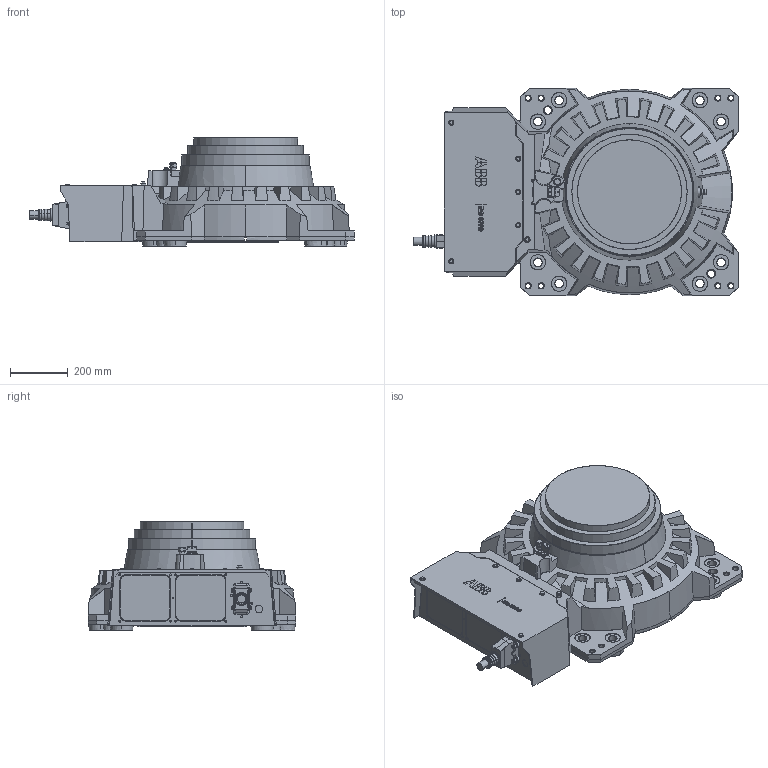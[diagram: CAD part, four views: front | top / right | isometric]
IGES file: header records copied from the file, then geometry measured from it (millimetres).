
Start section: SolidWorks IGES file using analytic representation for surfaces
Global section: file name: C:\Data\SAP_DOC\LW\IRB 6720\IRB6720-MH3_160kg-320_OC_01_SW_J\IRB6720-MH3_160kg-320_OC_01_IGES_J\IRB6720-MH3_160kg-320_OC_00_BASE_CAD.igs; native system: SolidWorks 2024; preprocessor: SolidWorks 2024; author: SEJOVAS3; date: 260610.134050; units: millimetre
Bounding box: 1124.5 x 720 x 374 mm (x, y, z)
Surface area: 2785974 mm2 (no closed solid volume)
Topology: 0 solids, 0 shells, 1129 faces, 16273 edges, 16269 vertices
Faces by surface type: bspline 674, revolution 455
